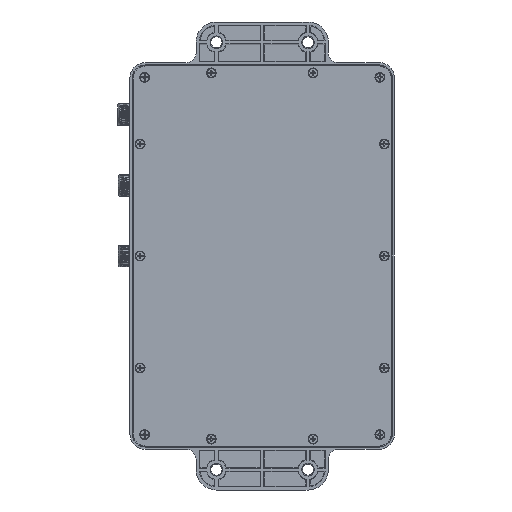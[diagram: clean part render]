
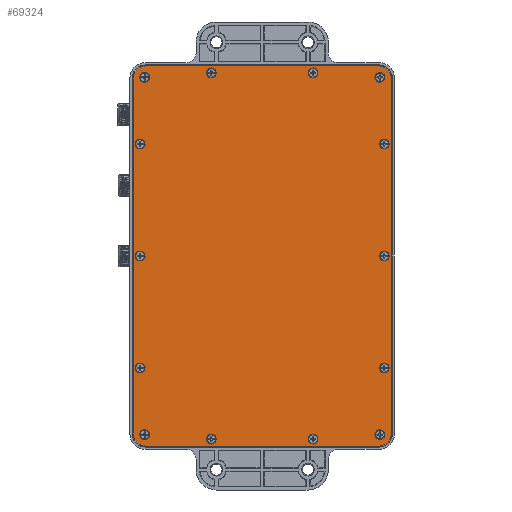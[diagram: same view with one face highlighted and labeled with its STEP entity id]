
A CAD part, top view. The second image highlights one B-rep face of the part: STEP entity #69324.
In plain terms, the highlighted planar face has unit normal (0, 0, 1).
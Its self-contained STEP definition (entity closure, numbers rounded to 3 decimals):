
#6398=PLANE('',#75185);
#10649=LINE('',#212375,#15496);
#10652=LINE('',#212383,#15499);
#10655=LINE('',#212391,#15502);
#10658=LINE('',#212399,#15505);
#15496=VECTOR('',#90970,1000.);
#15499=VECTOR('',#90979,1000.);
#15502=VECTOR('',#90988,1000.);
#15505=VECTOR('',#90997,1000.);
#32781=ORIENTED_EDGE('',*,*,#44440,.T.);
#32782=ORIENTED_EDGE('',*,*,#44441,.T.);
#32783=ORIENTED_EDGE('',*,*,#44442,.T.);
#32784=ORIENTED_EDGE('',*,*,#44443,.T.);
#32785=ORIENTED_EDGE('',*,*,#44444,.T.);
#32786=ORIENTED_EDGE('',*,*,#44445,.T.);
#32787=ORIENTED_EDGE('',*,*,#44446,.T.);
#32788=ORIENTED_EDGE('',*,*,#44447,.T.);
#32789=ORIENTED_EDGE('',*,*,#44448,.T.);
#32790=ORIENTED_EDGE('',*,*,#44449,.T.);
#32791=ORIENTED_EDGE('',*,*,#44450,.T.);
#32792=ORIENTED_EDGE('',*,*,#44451,.T.);
#32793=ORIENTED_EDGE('',*,*,#44452,.T.);
#32794=ORIENTED_EDGE('',*,*,#44453,.T.);
#32795=ORIENTED_EDGE('',*,*,#44424,.F.);
#32796=ORIENTED_EDGE('',*,*,#44439,.F.);
#32797=ORIENTED_EDGE('',*,*,#44437,.F.);
#32798=ORIENTED_EDGE('',*,*,#44435,.F.);
#32799=ORIENTED_EDGE('',*,*,#44433,.F.);
#32800=ORIENTED_EDGE('',*,*,#44431,.F.);
#32801=ORIENTED_EDGE('',*,*,#44429,.F.);
#32802=ORIENTED_EDGE('',*,*,#44427,.F.);
#44424=EDGE_CURVE('',#51593,#51594,#54785,.T.);
#44427=EDGE_CURVE('',#51594,#51595,#10649,.T.);
#44429=EDGE_CURVE('',#51595,#51596,#54786,.T.);
#44431=EDGE_CURVE('',#51596,#51597,#10652,.T.);
#44433=EDGE_CURVE('',#51597,#51598,#54787,.T.);
#44435=EDGE_CURVE('',#51598,#51599,#10655,.T.);
#44437=EDGE_CURVE('',#51599,#51600,#54788,.T.);
#44439=EDGE_CURVE('',#51600,#51593,#10658,.T.);
#44440=EDGE_CURVE('',#51601,#51601,#54789,.T.);
#44441=EDGE_CURVE('',#51602,#51602,#54790,.T.);
#44442=EDGE_CURVE('',#51603,#51603,#54791,.T.);
#44443=EDGE_CURVE('',#51604,#51604,#54792,.T.);
#44444=EDGE_CURVE('',#51605,#51605,#54793,.T.);
#44445=EDGE_CURVE('',#51606,#51606,#54794,.T.);
#44446=EDGE_CURVE('',#51607,#51607,#54795,.T.);
#44447=EDGE_CURVE('',#51608,#51608,#54796,.T.);
#44448=EDGE_CURVE('',#51609,#51609,#54797,.T.);
#44449=EDGE_CURVE('',#51610,#51610,#54798,.T.);
#44450=EDGE_CURVE('',#51611,#51611,#54799,.T.);
#44451=EDGE_CURVE('',#51612,#51612,#54800,.T.);
#44452=EDGE_CURVE('',#51613,#51613,#54801,.T.);
#44453=EDGE_CURVE('',#51614,#51614,#54802,.T.);
#51593=VERTEX_POINT('',#212370);
#51594=VERTEX_POINT('',#212371);
#51595=VERTEX_POINT('',#212376);
#51596=VERTEX_POINT('',#212380);
#51597=VERTEX_POINT('',#212384);
#51598=VERTEX_POINT('',#212388);
#51599=VERTEX_POINT('',#212392);
#51600=VERTEX_POINT('',#212396);
#51601=VERTEX_POINT('',#212402);
#51602=VERTEX_POINT('',#212404);
#51603=VERTEX_POINT('',#212406);
#51604=VERTEX_POINT('',#212408);
#51605=VERTEX_POINT('',#212410);
#51606=VERTEX_POINT('',#212412);
#51607=VERTEX_POINT('',#212414);
#51608=VERTEX_POINT('',#212416);
#51609=VERTEX_POINT('',#212418);
#51610=VERTEX_POINT('',#212420);
#51611=VERTEX_POINT('',#212422);
#51612=VERTEX_POINT('',#212424);
#51613=VERTEX_POINT('',#212426);
#51614=VERTEX_POINT('',#212428);
#54785=CIRCLE('',#75174,8.255);
#54786=CIRCLE('',#75177,8.255);
#54787=CIRCLE('',#75180,8.255);
#54788=CIRCLE('',#75183,8.255);
#54789=CIRCLE('',#75186,3.048);
#54790=CIRCLE('',#75187,3.048);
#54791=CIRCLE('',#75188,3.048);
#54792=CIRCLE('',#75189,3.048);
#54793=CIRCLE('',#75190,3.048);
#54794=CIRCLE('',#75191,3.048);
#54795=CIRCLE('',#75192,3.048);
#54796=CIRCLE('',#75193,3.048);
#54797=CIRCLE('',#75194,3.048);
#54798=CIRCLE('',#75195,3.048);
#54799=CIRCLE('',#75196,3.048);
#54800=CIRCLE('',#75197,3.048);
#54801=CIRCLE('',#75198,3.048);
#54802=CIRCLE('',#75199,3.048);
#58711=EDGE_LOOP('',(#32781));
#58712=EDGE_LOOP('',(#32782));
#58713=EDGE_LOOP('',(#32783));
#58714=EDGE_LOOP('',(#32784));
#58715=EDGE_LOOP('',(#32785));
#58716=EDGE_LOOP('',(#32786));
#58717=EDGE_LOOP('',(#32787));
#58718=EDGE_LOOP('',(#32788));
#58719=EDGE_LOOP('',(#32789));
#58720=EDGE_LOOP('',(#32790));
#58721=EDGE_LOOP('',(#32791));
#58722=EDGE_LOOP('',(#32792));
#58723=EDGE_LOOP('',(#32793));
#58724=EDGE_LOOP('',(#32794));
#58725=EDGE_LOOP('',(#32795,#32796,#32797,#32798,#32799,#32800,#32801,#32802));
#63195=FACE_BOUND('',#58711,.T.);
#63196=FACE_BOUND('',#58712,.T.);
#63197=FACE_BOUND('',#58713,.T.);
#63198=FACE_BOUND('',#58714,.T.);
#63199=FACE_BOUND('',#58715,.T.);
#63200=FACE_BOUND('',#58716,.T.);
#63201=FACE_BOUND('',#58717,.T.);
#63202=FACE_BOUND('',#58718,.T.);
#63203=FACE_BOUND('',#58719,.T.);
#63204=FACE_BOUND('',#58720,.T.);
#63205=FACE_BOUND('',#58721,.T.);
#63206=FACE_BOUND('',#58722,.T.);
#63207=FACE_BOUND('',#58723,.T.);
#63208=FACE_BOUND('',#58724,.T.);
#63209=FACE_BOUND('',#58725,.T.);
#69324=ADVANCED_FACE('',(#63195,#63196,#63197,#63198,#63199,#63200,#63201,
#63202,#63203,#63204,#63205,#63206,#63207,#63208,#63209),#6398,.F.);
#75174=AXIS2_PLACEMENT_3D('',#212369,#90964,#90965);
#75177=AXIS2_PLACEMENT_3D('',#212379,#90974,#90975);
#75180=AXIS2_PLACEMENT_3D('',#212387,#90983,#90984);
#75183=AXIS2_PLACEMENT_3D('',#212395,#90992,#90993);
#75185=AXIS2_PLACEMENT_3D('',#212400,#90998,#90999);
#75186=AXIS2_PLACEMENT_3D('',#212401,#91000,#91001);
#75187=AXIS2_PLACEMENT_3D('',#212403,#91002,#91003);
#75188=AXIS2_PLACEMENT_3D('',#212405,#91004,#91005);
#75189=AXIS2_PLACEMENT_3D('',#212407,#91006,#91007);
#75190=AXIS2_PLACEMENT_3D('',#212409,#91008,#91009);
#75191=AXIS2_PLACEMENT_3D('',#212411,#91010,#91011);
#75192=AXIS2_PLACEMENT_3D('',#212413,#91012,#91013);
#75193=AXIS2_PLACEMENT_3D('',#212415,#91014,#91015);
#75194=AXIS2_PLACEMENT_3D('',#212417,#91016,#91017);
#75195=AXIS2_PLACEMENT_3D('',#212419,#91018,#91019);
#75196=AXIS2_PLACEMENT_3D('',#212421,#91020,#91021);
#75197=AXIS2_PLACEMENT_3D('',#212423,#91022,#91023);
#75198=AXIS2_PLACEMENT_3D('',#212425,#91024,#91025);
#75199=AXIS2_PLACEMENT_3D('',#212427,#91026,#91027);
#90964=DIRECTION('',(0.,0.,-1.));
#90965=DIRECTION('',(-1.,0.,0.));
#90970=DIRECTION('',(-1.,0.,0.));
#90974=DIRECTION('',(0.,0.,-1.));
#90975=DIRECTION('',(1.,0.,0.));
#90979=DIRECTION('',(0.,1.,0.));
#90983=DIRECTION('',(0.,0.,-1.));
#90984=DIRECTION('',(1.,0.,0.));
#90988=DIRECTION('',(1.,0.,0.));
#90992=DIRECTION('',(0.,0.,-1.));
#90993=DIRECTION('',(-1.,0.,0.));
#90997=DIRECTION('',(0.,-1.,0.));
#90998=DIRECTION('',(0.,0.,-1.));
#90999=DIRECTION('',(1.,0.,0.));
#91000=DIRECTION('',(0.,0.,-1.));
#91001=DIRECTION('',(0.,-1.,0.));
#91002=DIRECTION('',(0.,0.,-1.));
#91003=DIRECTION('',(0.,-1.,0.));
#91004=DIRECTION('',(0.,0.,-1.));
#91005=DIRECTION('',(0.,-1.,0.));
#91006=DIRECTION('',(0.,0.,-1.));
#91007=DIRECTION('',(0.,-1.,0.));
#91008=DIRECTION('',(0.,0.,-1.));
#91009=DIRECTION('',(0.,-1.,0.));
#91010=DIRECTION('',(0.,0.,-1.));
#91011=DIRECTION('',(0.,-1.,0.));
#91012=DIRECTION('',(0.,0.,-1.));
#91013=DIRECTION('',(0.,-1.,0.));
#91014=DIRECTION('',(0.,0.,-1.));
#91015=DIRECTION('',(0.,-1.,0.));
#91016=DIRECTION('',(0.,0.,-1.));
#91017=DIRECTION('',(0.,-1.,0.));
#91018=DIRECTION('',(0.,0.,-1.));
#91019=DIRECTION('',(0.,-1.,0.));
#91020=DIRECTION('',(0.,0.,-1.));
#91021=DIRECTION('',(0.,-1.,0.));
#91022=DIRECTION('',(0.,0.,-1.));
#91023=DIRECTION('',(0.,-1.,0.));
#91024=DIRECTION('',(0.,0.,-1.));
#91025=DIRECTION('',(0.,-1.,0.));
#91026=DIRECTION('',(0.,0.,-1.));
#91027=DIRECTION('',(0.,-1.,0.));
#212369=CARTESIAN_POINT('',(72.327,-110.427,0.));
#212370=CARTESIAN_POINT('',(80.582,-110.427,0.));
#212371=CARTESIAN_POINT('',(72.327,-118.682,0.));
#212375=CARTESIAN_POINT('',(72.327,-118.682,0.));
#212376=CARTESIAN_POINT('',(-72.327,-118.682,0.));
#212379=CARTESIAN_POINT('',(-72.327,-110.427,0.));
#212380=CARTESIAN_POINT('',(-80.582,-110.427,0.));
#212383=CARTESIAN_POINT('',(-80.582,110.427,0.));
#212384=CARTESIAN_POINT('',(-80.582,110.427,0.));
#212387=CARTESIAN_POINT('',(-72.327,110.427,0.));
#212388=CARTESIAN_POINT('',(-72.327,118.682,0.));
#212391=CARTESIAN_POINT('',(72.327,118.682,0.));
#212392=CARTESIAN_POINT('',(72.327,118.682,0.));
#212395=CARTESIAN_POINT('',(72.327,110.427,0.));
#212396=CARTESIAN_POINT('',(80.582,110.427,0.));
#212399=CARTESIAN_POINT('',(80.582,110.427,0.));
#212400=CARTESIAN_POINT('',(72.327,-110.427,0.));
#212401=CARTESIAN_POINT('',(-73.41,111.51,0.));
#212402=CARTESIAN_POINT('',(-73.41,108.462,0.));
#212403=CARTESIAN_POINT('',(73.41,111.51,0.));
#212404=CARTESIAN_POINT('',(73.41,108.462,0.));
#212405=CARTESIAN_POINT('',(-73.41,-111.51,0.));
#212406=CARTESIAN_POINT('',(-73.41,-114.558,0.));
#212407=CARTESIAN_POINT('',(73.41,-111.51,0.));
#212408=CARTESIAN_POINT('',(73.41,-114.558,0.));
#212409=CARTESIAN_POINT('',(-31.75,114.3,0.));
#212410=CARTESIAN_POINT('',(-31.75,111.252,0.));
#212411=CARTESIAN_POINT('',(31.75,114.3,0.));
#212412=CARTESIAN_POINT('',(31.75,111.252,0.));
#212413=CARTESIAN_POINT('',(-31.75,-114.3,0.));
#212414=CARTESIAN_POINT('',(-31.75,-117.348,0.));
#212415=CARTESIAN_POINT('',(31.75,-114.3,0.));
#212416=CARTESIAN_POINT('',(31.75,-117.348,0.));
#212417=CARTESIAN_POINT('',(-76.2,-69.85,0.));
#212418=CARTESIAN_POINT('',(-76.2,-72.898,0.));
#212419=CARTESIAN_POINT('',(-76.2,0.,0.));
#212420=CARTESIAN_POINT('',(-76.2,-3.048,0.));
#212421=CARTESIAN_POINT('',(-76.2,69.85,0.));
#212422=CARTESIAN_POINT('',(-76.2,66.802,0.));
#212423=CARTESIAN_POINT('',(76.2,69.85,0.));
#212424=CARTESIAN_POINT('',(76.2,66.802,0.));
#212425=CARTESIAN_POINT('',(76.2,0.,0.));
#212426=CARTESIAN_POINT('',(76.2,-3.048,0.));
#212427=CARTESIAN_POINT('',(76.2,-69.85,0.));
#212428=CARTESIAN_POINT('',(76.2,-72.898,0.));
